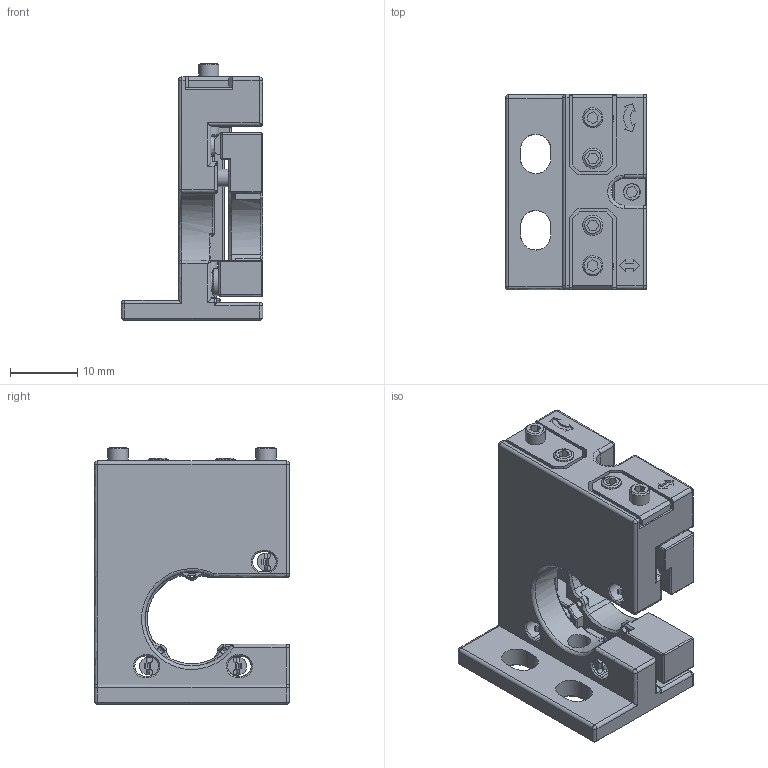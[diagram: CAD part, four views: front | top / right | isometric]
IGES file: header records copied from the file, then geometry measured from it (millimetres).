
Global section: file name: VMHV-127L-F-NM_IGS; native system: Autodesk Inventor 2023; preprocessor: unknown; author: ta.murata; date: 20250513.162847; units: millimetre
Bounding box: 21 x 29 x 38.2 mm (x, y, z)
Volume: 8593.1 mm3; surface area: 8128.2 mm2
Topology: 9 solids, 15 shells, 851 faces, 2157 edges, 1351 vertices
Faces by surface type: bspline 851
